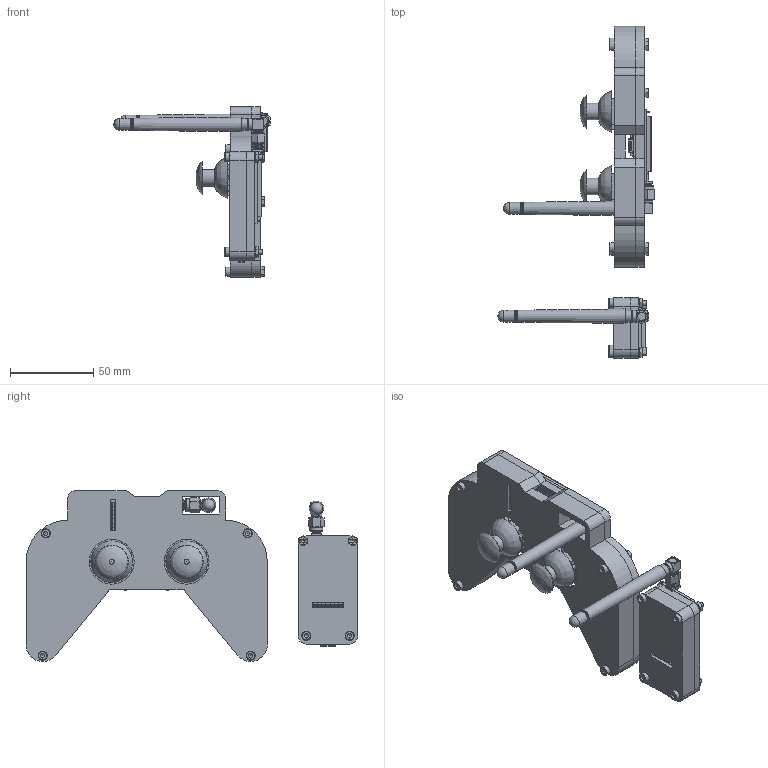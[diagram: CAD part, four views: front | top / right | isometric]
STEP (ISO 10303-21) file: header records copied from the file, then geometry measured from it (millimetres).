
FILE_DESCRIPTION(/* description */ ('STEP AP242 Edition 2','CAx-IF Rec.Pracs.---Representation and Presentation of Product Manufacturing Information (PMI)---4.0---2014-10-13','CAx-IF Rec.Pracs.---3D Tessellated Geometry---0.4---2014-09-14','2;1','CAx-IF Rec.Pracs.---User Defined Attributes---1.5---2016-08-15'),/* implementation_level */ '2;1');
FILE_NAME(/* name */ '6a384619fc247f6640da4ab0',/* time_stamp */ '2026-06-21T20:14:19Z',/* author */ (''),/* organization */ (''),/* preprocessor_version */ 'ST-DEVELOPER v20',/* originating_system */ 'ONSHAPE BY PTC INC, 1.216',/* authorisation */ ' ');
FILE_SCHEMA (('AP242_MANAGED_MODEL_BASED_3D_ENGINEERING_MIM_LF { 1 0 10303 442 3 1 4 }'));
Length unit declared in the file: metre
Products named in the file (65): Assembly 1; Hex nut grade A & B M3x0.5; Hex socket head cap screw M3x0.50 x 10; Part 1; Antenna 868__F___ _________; Hex socket head cap screw M3x0.50 x 20; E32-868T30D_Assembly_with_SPI_Header_and_Antenna <1>; Board_Varsay�lan; Pin Header 1x7 TH Pitch 2.54mm.stp_Varsay�l
an; SMA-K Connector_Varsay�lan; XIAO-ESP32S3 v2 <1>; Seeed Studio XIAO-ESP32-S3 (Sense) <1>; Seeed Studio XIAO-ESP32-S3 (Sense); U.FL-R-SMT-1_10_ v1; SKTAAAE010 v1 (1) <1>; Pins; Body; SKTAAAE010 v1 <1>; Shield; USB TYPE C PORT <1>; USB TYPE C PORT (1) <1>; BOSS-EXTRUDE7_2_; BOSS-EXTRUDE7_7_; BOSS-EXTRUDE14_10_; CHAMFER9; BOSS-EXTRUDE7_5_; BOSS-EXTRUDE14_6_; BOSS-EXTRUDE14_9_; BOSS-EXTRUDE14_2_; CUT-EXTRUDE5; BOSS-EXTRUDE7_4_; BOSS-EXTRUDE7_8_; BOSS-EXTRUDE7_9_; BOSS-EXTRUDE14_11_; BOSS-EXTRUDE14_12_; BOSS-EXTRUDE14_1_; BOSS-EXTRUDE14_8_; BOSS-EXTRUDE7_3_; MIRROR2; BOSS-EXTRUDE7_1_ ...
Assembly tree (147 placements, depth 6):
  Assembly 1
    Hex nut grade A & B M3x0.5  x16
    Hex socket head cap screw M3x0.50 x 10  x8
    Part 1  x2
    Antenna 868__F___ _________  x2
    Part 1
    Hex socket head cap screw M3x0.50 x 20  x8
    Part 1
    E32-868T30D_Assembly_with_SPI_Header_and_Antenna <1>
      Board_Varsay�lan
      Pin Header 1x7 TH Pitch 2.54mm.stp_Varsay�l
an
      Pin Header 1x7 TH Pitch 2.54mm.stp_Varsay�l
an
      Pin Header 1x7 TH Pitch 2.54mm.stp_Varsay�l
an
      Pin Header 1x7 TH Pitch 2.54mm.stp_Varsay�l
an
      Pin Header 1x7 TH Pitch 2.54mm.stp_Varsay�l
an
      Pin Header 1x7 TH Pitch 2.54mm.stp_Varsay�l
an
      Pin Header 1x7 TH Pitch 2.54mm.stp_Varsay�l
an
      SMA-K Connector_Varsay�lan
      Pin Header 1x7 TH Pitch 2.54mm.stp_Varsay�l
an
    XIAO-ESP32S3 v2 <1>
      Seeed Studio XIAO-ESP32-S3 (Sense) <1>
        Seeed Studio XIAO-ESP32-S3 (Sense)
        U.FL-R-SMT-1_10_ v1
        SKTAAAE010 v1 (1) <1>
          Pins
          Pins
          Body
          Pins
          Pins
        SKTAAAE010 v1 <1>
          Pins
          Pins
          Pins
          Body
          Pins
        Shield
        USB TYPE C PORT <1>
          USB TYPE C PORT (1) <1>
            BOSS-EXTRUDE7_2_
            BOSS-EXTRUDE7_7_
            BOSS-EXTRUDE14_10_
            CHAMFER9
            BOSS-EXTRUDE7_5_
            BOSS-EXTRUDE14_6_
            BOSS-EXTRUDE14_9_
            BOSS-EXTRUDE14_2_
            CUT-EXTRUDE5
            BOSS-EXTRUDE7_4_
            BOSS-EXTRUDE7_8_
            BOSS-EXTRUDE7_9_
            BOSS-EXTRUDE14_11_
            BOSS-EXTRUDE14_12_
            BOSS-EXTRUDE14_1_
            BOSS-EXTRUDE14_8_
            BOSS-EXTRUDE7_3_
            MIRROR2
            BOSS-EXTRUDE7_1_
            BOSS-EXTRUDE14_4_
            BOSS-EXTRUDE7_6_
            BOSS-EXTRUDE14_7_
Bounding box: 93.97 x 199.51 x 102.77 mm (x, y, z)
Volume: 118010.7 mm3; surface area: 106202.3 mm2
Topology: 132 solids, 144 shells, 4025 faces, 9877 edges, 6266 vertices
Faces by surface type: plane 2834, cylinder 813, cone 238, torus 108, bspline 18, sphere 14
Full cylindrical faces by diameter (mm): 0.3 x8, 0.5 x6, 0.6 x4, 0.65 x2, 0.75 x24, 0.762 x2, 0.77 x4, 0.9 x22, 0.914 x2, 1.27 x4, 1.524 x16, 1.72 x2, 1.86 x2, 2 x4, 2.459 x16, 2.8 x2, 3 x34, 3.2 x16, 3.5 x2, 4.089 x2, 4.3 x2, 4.674 x2, 5 x4, 5.08 x2, 5.23 x2, 5.385 x2, 5.5 x36, 5.63 x2, 6 x10, 6.3 x2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
Entity records: 60074 total; most frequent: CARTESIAN_POINT 11249, DIRECTION 8958, ORIENTED_EDGE 8556, EDGE_CURVE 4278, LINE 3228, VECTOR 3228, AXIS2_PLACEMENT_3D 2865, VERTEX_POINT 2861
